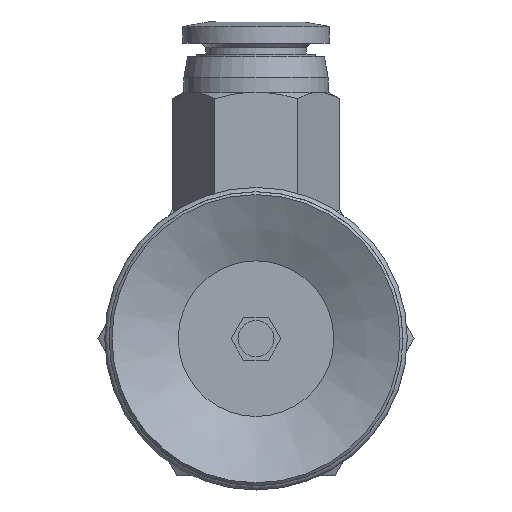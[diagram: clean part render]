
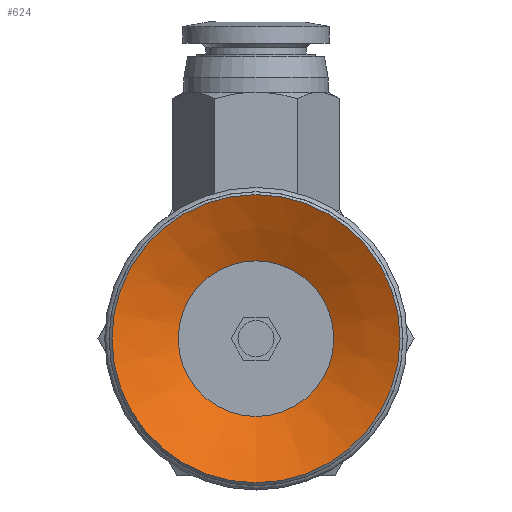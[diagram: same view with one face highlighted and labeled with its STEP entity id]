
A CAD part, front view. The second image highlights one B-rep face of the part: STEP entity #624.
In plain terms, the highlighted conical face has half-angle 63 degrees and reference radius 5.4 mm.
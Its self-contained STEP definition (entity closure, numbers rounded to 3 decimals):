
#624=ADVANCED_FACE('',(#954,#955),#956,.F.);
#954=FACE_BOUND('',#1375,.T.);
#955=FACE_OUTER_BOUND('',#1376,.T.);
#956=CONICAL_SURFACE('',#1377,5.4,1.1);
#1375=EDGE_LOOP('',(#2492));
#1376=EDGE_LOOP('',(#2493));
#1377=AXIS2_PLACEMENT_3D('',#2494,#2495,#2496);
#2492=ORIENTED_EDGE('',*,*,#3059,.F.);
#2493=ORIENTED_EDGE('',*,*,#3058,.T.);
#2494=CARTESIAN_POINT('',(0.0,5.518,0.0));
#2495=DIRECTION('',(-0.0,-1.0,0.));
#2496=DIRECTION('',(0.0,0.,-1.0));
#3058=EDGE_CURVE('',#3510,#3510,#3511,.T.);
#3059=EDGE_CURVE('',#3512,#3512,#3513,.T.);
#3510=VERTEX_POINT('',#4468);
#3511=CIRCLE('',#4469,10.0);
#3512=VERTEX_POINT('',#4470);
#3513=CIRCLE('',#4471,5.4);
#4468=CARTESIAN_POINT('',(0.0,3.175,-10.0));
#4469=AXIS2_PLACEMENT_3D('',#5276,#5277,#5278);
#4470=CARTESIAN_POINT('',(0.0,5.518,-5.4));
#4471=AXIS2_PLACEMENT_3D('',#5279,#5280,#5281);
#5276=CARTESIAN_POINT('',(0.0,3.175,0.0));
#5277=DIRECTION('',(0.0,-1.0,0.));
#5278=DIRECTION('',(0.0,0.,-1.0));
#5279=CARTESIAN_POINT('',(0.0,5.518,0.0));
#5280=DIRECTION('',(0.0,-1.0,0.));
#5281=DIRECTION('',(0.0,0.,-1.0));
